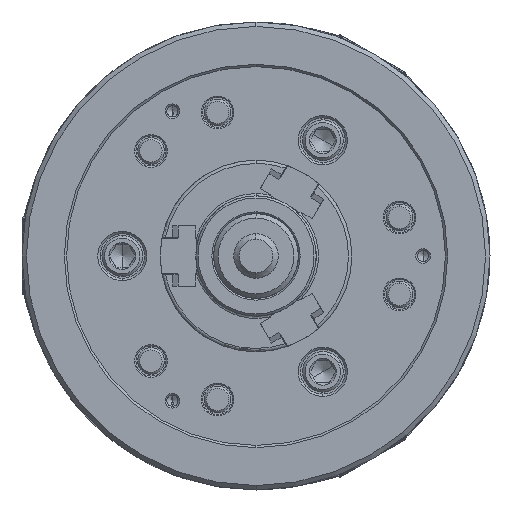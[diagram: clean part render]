
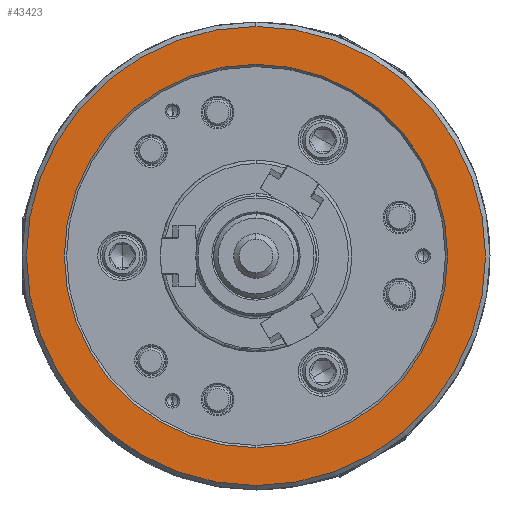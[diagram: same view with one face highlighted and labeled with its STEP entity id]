
A CAD part, left-side view. The second image highlights one B-rep face of the part: STEP entity #43423.
In plain terms, the highlighted planar face has unit normal (-1, 0, 0).
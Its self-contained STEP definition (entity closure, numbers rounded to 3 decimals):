
#3067 = FACE_OUTER_BOUND ( 'NONE', #19928, .T. ) ;
#3599 = PLANE ( 'NONE',  #26328 ) ;
#8032 = VERTEX_POINT ( 'NONE', #62014 ) ;
#11372 = CIRCLE ( 'NONE', #100894, 103. ) ;
#12960 = DIRECTION ( 'NONE',  ( 0., 0., -1. ) ) ;
#13872 = CARTESIAN_POINT ( 'NONE',  ( -85., 0., 0. ) ) ;
#16009 = VERTEX_POINT ( 'NONE', #56319 ) ;
#19928 = EDGE_LOOP ( 'NONE', ( #88139, #72604 ) ) ;
#21982 = AXIS2_PLACEMENT_3D ( 'NONE', #31280, #64804, #23001 ) ;
#23001 = DIRECTION ( 'NONE',  ( 0., 0., -1. ) ) ;
#24190 = EDGE_CURVE ( 'NONE', #62111, #8032, #39591, .T. ) ;
#25967 = DIRECTION ( 'NONE',  ( 0., 0., -1. ) ) ;
#26328 = AXIS2_PLACEMENT_3D ( 'NONE', #45444, #54229, #12960 ) ;
#29690 = AXIS2_PLACEMENT_3D ( 'NONE', #84830, #43612, #25967 ) ;
#31280 = CARTESIAN_POINT ( 'NONE',  ( -85., 0., 0. ) ) ;
#32350 = ORIENTED_EDGE ( 'NONE', *, *, #34431, .T. ) ;
#34058 = EDGE_LOOP ( 'NONE', ( #32350, #95941 ) ) ;
#34431 = EDGE_CURVE ( 'NONE', #16009, #80326, #107197, .T. ) ;
#34958 = CIRCLE ( 'NONE', #29690, 86. ) ;
#36648 = FACE_BOUND ( 'NONE', #34058, .T. ) ;
#36939 = DIRECTION ( 'NONE',  ( 0., 0., -1. ) ) ;
#39591 = CIRCLE ( 'NONE', #21982, 103. ) ;
#43423 = ADVANCED_FACE ( 'NONE', ( #3067, #36648 ), #3599, .F. ) ;
#43612 = DIRECTION ( 'NONE',  ( 1., 0., 0. ) ) ;
#45444 = CARTESIAN_POINT ( 'NONE',  ( -85., -103., 0. ) ) ;
#46899 = DIRECTION ( 'NONE',  ( 1., 0., 0. ) ) ;
#53464 = CARTESIAN_POINT ( 'NONE',  ( -85., 0., 0. ) ) ;
#54229 = DIRECTION ( 'NONE',  ( 1., 0., 0. ) ) ;
#56319 = CARTESIAN_POINT ( 'NONE',  ( -85., 0., 86. ) ) ;
#59747 = AXIS2_PLACEMENT_3D ( 'NONE', #13872, #46899, #82603 ) ;
#62014 = CARTESIAN_POINT ( 'NONE',  ( -85., 0., -103. ) ) ;
#62111 = VERTEX_POINT ( 'NONE', #88409 ) ;
#62552 = CARTESIAN_POINT ( 'NONE',  ( -85., 0., -86. ) ) ;
#64804 = DIRECTION ( 'NONE',  ( 1., 0., 0. ) ) ;
#72604 = ORIENTED_EDGE ( 'NONE', *, *, #24190, .F. ) ;
#80326 = VERTEX_POINT ( 'NONE', #62552 ) ;
#82603 = DIRECTION ( 'NONE',  ( 0., 0., -1. ) ) ;
#84830 = CARTESIAN_POINT ( 'NONE',  ( -85., 0., 0. ) ) ;
#87016 = DIRECTION ( 'NONE',  ( 1., 0., 0. ) ) ;
#88139 = ORIENTED_EDGE ( 'NONE', *, *, #88517, .F. ) ;
#88409 = CARTESIAN_POINT ( 'NONE',  ( -85., 0., 103. ) ) ;
#88517 = EDGE_CURVE ( 'NONE', #8032, #62111, #11372, .T. ) ;
#95941 = ORIENTED_EDGE ( 'NONE', *, *, #103312, .T. ) ;
#100894 = AXIS2_PLACEMENT_3D ( 'NONE', #53464, #87016, #36939 ) ;
#103312 = EDGE_CURVE ( 'NONE', #80326, #16009, #34958, .T. ) ;
#107197 = CIRCLE ( 'NONE', #59747, 86. ) ;
